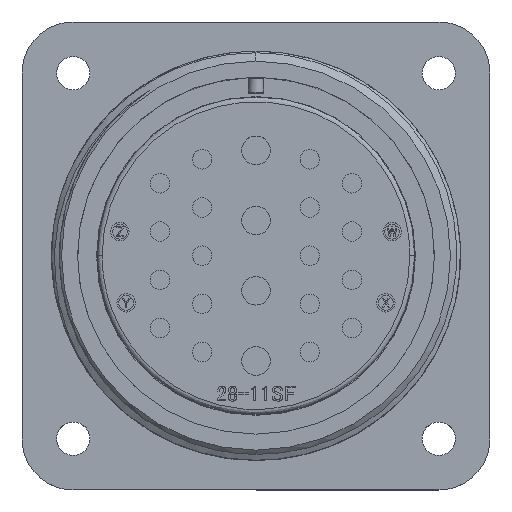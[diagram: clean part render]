
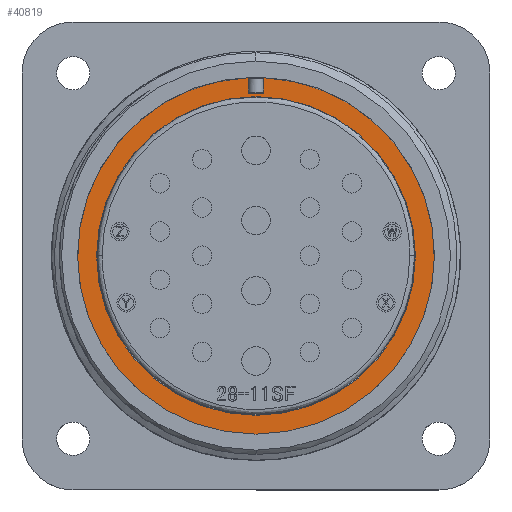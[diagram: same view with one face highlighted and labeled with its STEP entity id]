
A CAD part, top view. The second image highlights one B-rep face of the part: STEP entity #40819.
In plain terms, the highlighted planar face has unit normal (0, 0, 1).
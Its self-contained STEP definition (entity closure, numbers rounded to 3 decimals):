
#236 = CARTESIAN_POINT ( 'NONE',  ( -0.825, 17.65, -19.18 ) ) ;
#255 = ORIENTED_EDGE ( 'NONE', *, *, #3342, .F. ) ;
#608 = CIRCLE ( 'NONE', #13523, 0.1 ) ;
#893 = PLANE ( 'NONE',  #43340 ) ;
#1084 = EDGE_CURVE ( 'NONE', #31163, #32248, #15687, .T. ) ;
#1727 = CARTESIAN_POINT ( 'NONE',  ( -0.725, 17.65, -19.18 ) ) ;
#3342 = EDGE_CURVE ( 'NONE', #15676, #43244, #19445, .T. ) ;
#5624 = CARTESIAN_POINT ( 'NONE',  ( 0., -17.3, -19.18 ) ) ;
#5693 = VECTOR ( 'NONE', #13021, 1000. ) ;
#5852 = CARTESIAN_POINT ( 'NONE',  ( 0.725, 17.65, -19.18 ) ) ;
#5952 = EDGE_CURVE ( 'NONE', #15676, #36885, #37769, .T. ) ;
#6113 = VERTEX_POINT ( 'NONE', #27356 ) ;
#6694 = CARTESIAN_POINT ( 'NONE',  ( 0., -19.375, -19.18 ) ) ;
#6864 = ORIENTED_EDGE ( 'NONE', *, *, #1084, .T. ) ;
#7485 = DIRECTION ( 'NONE',  ( -1., 0., 0. ) ) ;
#8044 = DIRECTION ( 'NONE',  ( 0., 0., -1. ) ) ;
#8158 = CARTESIAN_POINT ( 'NONE',  ( -0.925, 19.253, -19.18 ) ) ;
#9738 = ORIENTED_EDGE ( 'NONE', *, *, #23514, .T. ) ;
#9855 = VERTEX_POINT ( 'NONE', #5624 ) ;
#9866 = EDGE_CURVE ( 'NONE', #6113, #43244, #28335, .T. ) ;
#10455 = CARTESIAN_POINT ( 'NONE',  ( 0., 0., -19.18 ) ) ;
#10796 = DIRECTION ( 'NONE',  ( 0., 0., 1. ) ) ;
#10834 = VERTEX_POINT ( 'NONE', #6694 ) ;
#11180 = ORIENTED_EDGE ( 'NONE', *, *, #45361, .T. ) ;
#11213 = AXIS2_PLACEMENT_3D ( 'NONE', #32480, #10796, #36133 ) ;
#11703 = DIRECTION ( 'NONE',  ( 0., 0., 1. ) ) ;
#11780 = ORIENTED_EDGE ( 'NONE', *, *, #33657, .F. ) ;
#11785 = DIRECTION ( 'NONE',  ( 0., -1., 0. ) ) ;
#11792 = DIRECTION ( 'NONE',  ( 0., -1., 0. ) ) ;
#12028 = CARTESIAN_POINT ( 'NONE',  ( -0.825, 19.357, -19.18 ) ) ;
#12699 = AXIS2_PLACEMENT_3D ( 'NONE', #37640, #15886, #41254 ) ;
#12872 = CARTESIAN_POINT ( 'NONE',  ( 0., 17.3, -19.18 ) ) ;
#13021 = DIRECTION ( 'NONE',  ( 0., -1., 0. ) ) ;
#13523 = AXIS2_PLACEMENT_3D ( 'NONE', #19223, #44642, #22834 ) ;
#13864 = EDGE_CURVE ( 'NONE', #45784, #6113, #27970, .T. ) ;
#14053 = DIRECTION ( 'NONE',  ( 0., -1., 0. ) ) ;
#15676 = VERTEX_POINT ( 'NONE', #5852 ) ;
#15687 = LINE ( 'NONE', #12028, #22998 ) ;
#15886 = DIRECTION ( 'NONE',  ( 0., 0., 1. ) ) ;
#17566 = AXIS2_PLACEMENT_3D ( 'NONE', #18785, #44195, #22387 ) ;
#18398 = FACE_BOUND ( 'NONE', #42959, .T. ) ;
#18785 = CARTESIAN_POINT ( 'NONE',  ( 0.725, 17.75, -19.18 ) ) ;
#19223 = CARTESIAN_POINT ( 'NONE',  ( -0.725, 17.75, -19.18 ) ) ;
#19445 = CIRCLE ( 'NONE', #17566, 0.1 ) ;
#19850 = ORIENTED_EDGE ( 'NONE', *, *, #9866, .T. ) ;
#20122 = CARTESIAN_POINT ( 'NONE',  ( -0.825, 17.75, -19.18 ) ) ;
#22319 = CARTESIAN_POINT ( 'NONE',  ( 0., 17.3, -19.18 ) ) ;
#22345 = VERTEX_POINT ( 'NONE', #23954 ) ;
#22387 = DIRECTION ( 'NONE',  ( 0., 1., 0. ) ) ;
#22834 = DIRECTION ( 'NONE',  ( 0., 1., 0. ) ) ;
#22998 = VECTOR ( 'NONE', #30063, 1000. ) ;
#23514 = EDGE_CURVE ( 'NONE', #9855, #29675, #32454, .T. ) ;
#23954 = CARTESIAN_POINT ( 'NONE',  ( -0.93, 19.353, -19.18 ) ) ;
#24783 = CARTESIAN_POINT ( 'NONE',  ( 0.825, 17.75, -19.18 ) ) ;
#25228 = ORIENTED_EDGE ( 'NONE', *, *, #13864, .T. ) ;
#25330 = CIRCLE ( 'NONE', #44767, 17.3 ) ;
#26644 = CIRCLE ( 'NONE', #33392, 0.1 ) ;
#27356 = CARTESIAN_POINT ( 'NONE',  ( 0.825, 19.253, -19.18 ) ) ;
#27970 = CIRCLE ( 'NONE', #11213, 0.1 ) ;
#28053 = VECTOR ( 'NONE', #7485, 1000. ) ;
#28335 = LINE ( 'NONE', #34745, #5693 ) ;
#28445 = ORIENTED_EDGE ( 'NONE', *, *, #36238, .T. ) ;
#29072 = CARTESIAN_POINT ( 'NONE',  ( 0., 0., -19.18 ) ) ;
#29206 = FACE_OUTER_BOUND ( 'NONE', #33283, .T. ) ;
#29675 = VERTEX_POINT ( 'NONE', #12872 ) ;
#30063 = DIRECTION ( 'NONE',  ( 0., 1., 0. ) ) ;
#31163 = VERTEX_POINT ( 'NONE', #20122 ) ;
#32248 = VERTEX_POINT ( 'NONE', #39683 ) ;
#32454 = CIRCLE ( 'NONE', #43352, 17.3 ) ;
#32480 = CARTESIAN_POINT ( 'NONE',  ( 0.925, 19.253, -19.18 ) ) ;
#33283 = EDGE_LOOP ( 'NONE', ( #6864, #36293, #41270, #11180, #25228, #19850, #255, #34342, #11780 ) ) ;
#33364 = DIRECTION ( 'NONE',  ( 0., -1., 0. ) ) ;
#33389 = CARTESIAN_POINT ( 'NONE',  ( 0., 0., -19.18 ) ) ;
#33392 = AXIS2_PLACEMENT_3D ( 'NONE', #8158, #33489, #11792 ) ;
#33484 = DIRECTION ( 'NONE',  ( 0., 0., 1. ) ) ;
#33489 = DIRECTION ( 'NONE',  ( 0., 0., 1. ) ) ;
#33657 = EDGE_CURVE ( 'NONE', #31163, #36885, #608, .T. ) ;
#34342 = ORIENTED_EDGE ( 'NONE', *, *, #5952, .T. ) ;
#34628 = AXIS2_PLACEMENT_3D ( 'NONE', #33389, #11703, #37057 ) ;
#34745 = CARTESIAN_POINT ( 'NONE',  ( 0.825, 17.65, -19.18 ) ) ;
#35800 = DIRECTION ( 'NONE',  ( 0., 0., -1. ) ) ;
#36133 = DIRECTION ( 'NONE',  ( 0., -1., 0. ) ) ;
#36238 = EDGE_CURVE ( 'NONE', #29675, #9855, #25330, .T. ) ;
#36293 = ORIENTED_EDGE ( 'NONE', *, *, #44406, .T. ) ;
#36461 = CIRCLE ( 'NONE', #12699, 19.375 ) ;
#36885 = VERTEX_POINT ( 'NONE', #1727 ) ;
#37057 = DIRECTION ( 'NONE',  ( 0., -1., 0. ) ) ;
#37640 = CARTESIAN_POINT ( 'NONE',  ( 0., 0., -19.18 ) ) ;
#37769 = LINE ( 'NONE', #236, #28053 ) ;
#39683 = CARTESIAN_POINT ( 'NONE',  ( -0.825, 19.253, -19.18 ) ) ;
#40168 = CARTESIAN_POINT ( 'NONE',  ( 0.93, 19.353, -19.18 ) ) ;
#40819 = ADVANCED_FACE ( 'NONE', ( #29206, #18398 ), #893, .T. ) ;
#41254 = DIRECTION ( 'NONE',  ( 0., -1., 0. ) ) ;
#41270 = ORIENTED_EDGE ( 'NONE', *, *, #42554, .T. ) ;
#42554 = EDGE_CURVE ( 'NONE', #22345, #10834, #36461, .T. ) ;
#42959 = EDGE_LOOP ( 'NONE', ( #9738, #28445 ) ) ;
#43057 = CIRCLE ( 'NONE', #34628, 19.375 ) ;
#43244 = VERTEX_POINT ( 'NONE', #24783 ) ;
#43340 = AXIS2_PLACEMENT_3D ( 'NONE', #22319, #33484, #11785 ) ;
#43352 = AXIS2_PLACEMENT_3D ( 'NONE', #10455, #35800, #14053 ) ;
#44195 = DIRECTION ( 'NONE',  ( 0., 0., 1. ) ) ;
#44406 = EDGE_CURVE ( 'NONE', #32248, #22345, #26644, .T. ) ;
#44642 = DIRECTION ( 'NONE',  ( 0., 0., 1. ) ) ;
#44767 = AXIS2_PLACEMENT_3D ( 'NONE', #29072, #8044, #33364 ) ;
#45361 = EDGE_CURVE ( 'NONE', #10834, #45784, #43057, .T. ) ;
#45784 = VERTEX_POINT ( 'NONE', #40168 ) ;
